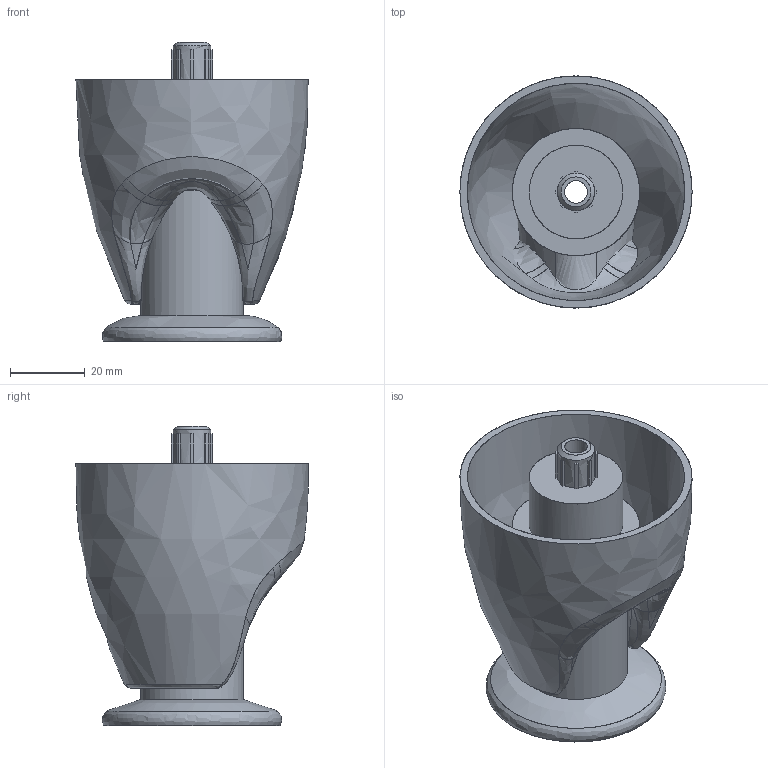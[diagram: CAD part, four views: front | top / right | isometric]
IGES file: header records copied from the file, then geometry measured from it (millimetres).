
Start section: C
Global section: file name: 0763-70.igs; native system: By Siemens PLM Incorporated; preprocessor: XPlus GENERIC/IGES 16.0.42; author: Author; organization: Title; date: 20231129.104311; units: millimetre
Bounding box: 62 x 61.99 x 80 mm (x, y, z)
Surface area: 45900.4 mm2 (no closed solid volume)
Topology: 0 solids, 0 shells, 113 faces, 658 edges, 656 vertices
Faces by surface type: bspline 113
